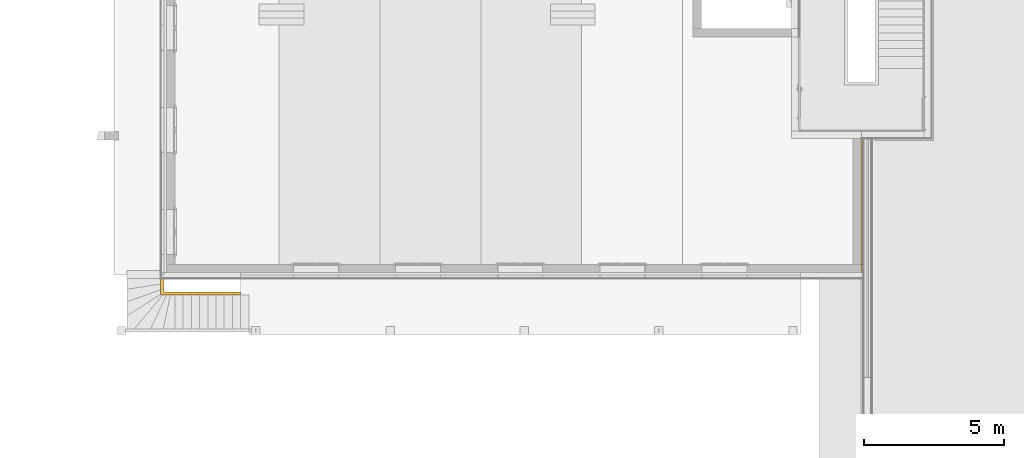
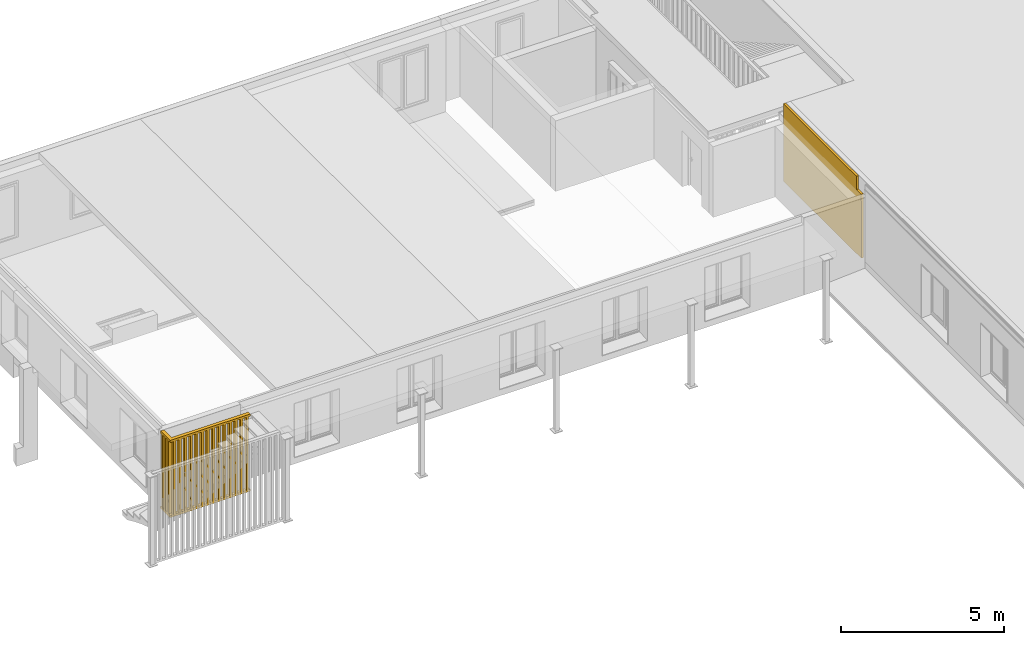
# One storey, part 19 of 20: 1 covering, 1 railing.
"""IFC4 building model written with IfcOpenShell, lengths in millimetres."""

from ifc_helpers import new_model, entity, si_unit, converted_unit, derived_unit, direction, frame, origin_with_axes, place, context, subcontext, project, spatial, polygons, material, constituent, constituent_set, type_object, element, save


model = new_model("IFC4")

# Units and contexts
model_context = context("Model", 3, precision=0.01, world=origin_with_axes(), true_north=direction((0.0, 1.0)))
body_context = subcontext(model_context, "Body", "Model", "MODEL_VIEW")
ifc_project = project(units=[si_unit("LENGTHUNIT", "METRE", prefix="MILLI"), si_unit("AREAUNIT", "SQUARE_METRE"), si_unit("VOLUMEUNIT", "CUBIC_METRE"), converted_unit("PLANEANGLEUNIT", "DEGREE", entity("IfcPlaneAngleMeasure", 0.0174532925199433), si_unit("PLANEANGLEUNIT", "RADIAN"), dimensions=[0, 0, 0, 0, 0, 0, 0]), converted_unit("TIMEUNIT", "Year", entity("IfcTimeMeasure", 31557600.0), si_unit("TIMEUNIT", "SECOND"), dimensions=[0, 0, 1, 0, 0, 0, 0]), si_unit("MASSUNIT", "GRAM", prefix="KILO"), si_unit("THERMODYNAMICTEMPERATUREUNIT", "DEGREE_CELSIUS"), si_unit("LUMINOUSINTENSITYUNIT", "LUMEN"), si_unit("ENERGYUNIT", "JOULE", prefix="MEGA"), derived_unit("THERMALCONDUCTANCEUNIT", [(si_unit("POWERUNIT", "WATT"), 1), (si_unit("LENGTHUNIT", "METRE"), -1), (si_unit("THERMODYNAMICTEMPERATUREUNIT", "KELVIN"), -1)]), derived_unit("SPECIFICHEATCAPACITYUNIT", [(si_unit("ENERGYUNIT", "JOULE"), 1), (si_unit("MASSUNIT", "GRAM", prefix="KILO"), -1), (si_unit("THERMODYNAMICTEMPERATUREUNIT", "KELVIN"), -1)]), derived_unit("MASSDENSITYUNIT", [(si_unit("MASSUNIT", "GRAM", prefix="KILO"), 1), (si_unit("VOLUMEUNIT", "CUBIC_METRE"), -1)])], contexts=[model_context])

# Site, building, storey
site_placement = place(None, origin_with_axes())
site = spatial("IfcSite", under=ifc_project, at=site_placement, Name="Gelände", CompositionType="ELEMENT")
building_placement = place(site_placement, origin_with_axes())
building = spatial("IfcBuilding", under=site, at=building_placement, Name="Gebäude", CompositionType="ELEMENT")
storey_placement = place(building_placement, frame((0.0, 0.0, 5.198845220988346e-05), z_axis=(0.0, 0.0, 1.0), x_axis=(1.0, 0.0, 0.0)))
storey = spatial("IfcBuildingStorey", under=building, at=storey_placement, Name="EG", CompositionType="ELEMENT", Elevation=0.0)

# Railing
ifc_material_1 = material(Name="Vollholzwerkstoff")
ifc_constituent_1 = constituent(ifc_material_1, Name="Vollholzwerkstoff 1")
ifc_constituent_2 = constituent(ifc_material_1, Name="Vollholzwerkstoff 2")
ifc_constituent_3 = constituent(ifc_material_1, Name="Vollholzwerkstoff 3")
ifc_constituent_4 = constituent(ifc_material_1, Name="Vollholzwerkstoff 4")
ifc_constituent_5 = constituent(ifc_material_1, Name="Vollholzwerkstoff 5")
ifc_constituent_6 = constituent(ifc_material_1, Name="Vollholzwerkstoff 6")
ifc_constituent_7 = constituent(ifc_material_1, Name="Vollholzwerkstoff 7")
ifc_constituent_8 = constituent(ifc_material_1, Name="Vollholzwerkstoff 8")
ifc_constituent_9 = constituent(ifc_material_1, Name="Vollholzwerkstoff 9")
ifc_constituent_10 = constituent(ifc_material_1, Name="Vollholzwerkstoff 10")
ifc_constituent_11 = constituent(ifc_material_1, Name="Vollholzwerkstoff 11")
ifc_constituent_12 = constituent(ifc_material_1, Name="Vollholzwerkstoff 12")
ifc_constituent_13 = constituent(ifc_material_1, Name="Vollholzwerkstoff 13")
ifc_constituent_14 = constituent(ifc_material_1, Name="Vollholzwerkstoff 14")
ifc_constituent_15 = constituent(ifc_material_1, Name="Vollholzwerkstoff 15")
ifc_constituent_16 = constituent(ifc_material_1, Name="Vollholzwerkstoff 16")
ifc_constituent_17 = constituent(ifc_material_1, Name="Vollholzwerkstoff 17")
ifc_constituent_18 = constituent(ifc_material_1, Name="Vollholzwerkstoff 18")
ifc_constituent_19 = constituent(ifc_material_1, Name="Vollholzwerkstoff 19")
ifc_constituent_20 = constituent(ifc_material_1, Name="Vollholzwerkstoff 20")
ifc_constituent_21 = constituent(ifc_material_1, Name="Vollholzwerkstoff 21")
ifc_constituent_set = constituent_set(constituents=[ifc_constituent_1, ifc_constituent_2, ifc_constituent_3, ifc_constituent_4, ifc_constituent_5, ifc_constituent_6, ifc_constituent_7, ifc_constituent_8, ifc_constituent_9, ifc_constituent_10, ifc_constituent_11, ifc_constituent_12, ifc_constituent_13, ifc_constituent_14, ifc_constituent_15, ifc_constituent_16, ifc_constituent_17, ifc_constituent_18, ifc_constituent_19, ifc_constituent_20, ifc_constituent_21])
railing_type = type_object("IfcRailingType", Name="Geländerart", PredefinedType="NOTDEFINED")
railing_placement = place(storey_placement, frame((-9118.106064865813, 22017.59673908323, 40.00000000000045), z_axis=(0.0, 0.0, 1.0), x_axis=(1.0, 0.0, 0.0)))
element("IfcRailing", 1, at=railing_placement, inside=storey, type_object=railing_type, material=ifc_constituent_set, Name="Geländer-001", PredefinedType="NOTDEFINED", context=body_context, shape_type="Tessellation", body=[
    polygons([(2046.865966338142, 930.0000016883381, 2859.999948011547), (2046.865966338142, 930.0000016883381, 2779.999948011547), (2046.865966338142, 340.0000000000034, 2779.999948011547), (2046.865966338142, 340.0000000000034, 2859.999948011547), (2166.865966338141, 930.0000016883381, 2859.999948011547), (2166.865966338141, 930.0000016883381, 2779.999948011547), (2166.865966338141, 460.0000000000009, 2779.999948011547), (2166.865966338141, 460.0000000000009, 2859.999948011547)], [[[1, 2, 3, 4]], [[1, 5, 6, 2]], [[2, 6, 7, 3]], [[4, 3, 7, 8]], [[5, 1, 4, 8]], [[6, 5, 8, 7]]], closed=True),
    polygons([(2046.865966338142, 930.0000016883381, 40.0), (2046.865966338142, 930.0000016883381, -40.0), (2046.865966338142, 340.0000000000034, -40.0), (2046.865966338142, 340.0000000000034, 40.0), (2166.865966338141, 930.0000016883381, 40.0), (2166.865966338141, 930.0000016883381, -40.0), (2166.865966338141, 460.0000000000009, -40.0), (2166.865966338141, 460.0000000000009, 40.0)], [[[1, 2, 3, 4]], [[1, 5, 6, 2]], [[2, 6, 7, 3]], [[4, 3, 7, 8]], [[5, 1, 4, 8]], [[6, 5, 8, 7]]], closed=True),
    polygons([(2166.865966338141, 807.5000012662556, 40.0), (2166.865966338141, 807.5000012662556, 2779.999948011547), (2046.865966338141, 807.5000012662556, 2779.999948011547), (2046.865966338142, 807.5000012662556, 40.0), (2166.865966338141, 887.500001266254, 40.0), (2166.865966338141, 887.500001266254, 2779.999948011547), (2046.865966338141, 887.500001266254, 2779.999948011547), (2046.865966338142, 887.500001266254, 40.0)], [[[1, 2, 3, 4]], [[5, 6, 2, 1]], [[2, 6, 7, 3]], [[4, 3, 7, 8]], [[1, 4, 8, 5]], [[8, 7, 6, 5]]], closed=True),
    polygons([(2166.865966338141, 625.0000008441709, 40.0), (2166.865966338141, 625.0000008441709, 2779.999948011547), (2046.865966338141, 625.0000008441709, 2779.999948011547), (2046.865966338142, 625.0000008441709, 40.0), (2166.865966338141, 705.0000008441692, 40.0), (2166.865966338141, 705.0000008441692, 2779.999948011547), (2046.865966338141, 705.0000008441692, 2779.999948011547), (2046.865966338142, 705.0000008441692, 40.0)], [[[1, 2, 3, 4]], [[5, 6, 2, 1]], [[2, 6, 7, 3]], [[4, 3, 7, 8]], [[1, 4, 8, 5]], [[8, 7, 6, 5]]], closed=True),
    polygons([(2166.865966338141, 442.5000004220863, 40.0), (2166.865966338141, 442.5000004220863, 2779.999948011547), (2046.865966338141, 442.5000004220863, 2779.999948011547), (2046.865966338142, 442.5000004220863, 40.0), (2166.865966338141, 522.5000004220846, 40.0), (2166.865966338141, 522.5000004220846, 2779.999948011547), (2046.865966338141, 522.5000004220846, 2779.999948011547), (2046.865966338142, 522.5000004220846, 40.0)], [[[1, 2, 3, 4]], [[5, 6, 2, 1]], [[2, 6, 7, 3]], [[4, 3, 7, 8]], [[1, 4, 8, 5]], [[8, 7, 6, 5]]], closed=True),
    polygons([(2046.865966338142, 340.0000000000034, 2859.999948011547), (2046.865966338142, 340.0000000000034, 2779.999948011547), (4889.859462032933, 340.0000000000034, 2779.999948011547), (4889.859462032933, 340.0000000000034, 2859.999948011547), (2166.865966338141, 460.0000000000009, 2859.999948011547), (2166.865966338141, 460.0000000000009, 2779.999948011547), (4889.859462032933, 460.0000000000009, 2779.999948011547), (4889.859462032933, 460.0000000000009, 2859.999948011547)], [[[1, 2, 3, 4]], [[1, 5, 6, 2]], [[2, 6, 7, 3]], [[4, 3, 7, 8]], [[5, 1, 4, 8]], [[6, 5, 8, 7]]], closed=True),
    polygons([(2046.865966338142, 340.0000000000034, 40.0), (2046.865966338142, 340.0000000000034, -40.0), (4889.859462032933, 340.0000000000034, -39.99999999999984), (4889.859462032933, 340.0000000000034, 40.00000000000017), (2166.865966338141, 460.0000000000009, 40.0), (2166.865966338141, 460.0000000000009, -40.0), (4889.859462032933, 460.0000000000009, -39.99999999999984), (4889.859462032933, 460.0000000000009, 40.00000000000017)], [[[1, 2, 3, 4]], [[1, 5, 6, 2]], [[2, 6, 7, 3]], [[4, 3, 7, 8]], [[5, 1, 4, 8]], [[6, 5, 8, 7]]], closed=True),
    polygons([(2245.732199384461, 460.0000000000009, 40.0), (2245.732199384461, 460.0000000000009, 2779.999948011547), (2245.732199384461, 340.0000000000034, 2779.999948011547), (2245.732199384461, 340.0000000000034, 40.0), (2165.732199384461, 460.0000000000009, 40.0), (2165.732199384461, 460.0000000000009, 2779.999948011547), (2165.732199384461, 340.0000000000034, 2779.999948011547), (2165.732199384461, 340.0000000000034, 40.0)], [[[1, 2, 3, 4]], [[5, 6, 2, 1]], [[2, 6, 7, 3]], [[4, 3, 7, 8]], [[1, 4, 8, 5]], [[8, 7, 6, 5]]], closed=True),
    polygons([(2444.598432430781, 460.0000000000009, 40.00000000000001), (2444.598432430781, 460.0000000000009, 2779.999948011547), (2444.598432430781, 340.0000000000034, 2779.999948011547), (2444.598432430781, 340.0000000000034, 40.00000000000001), (2364.598432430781, 460.0000000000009, 40.00000000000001), (2364.598432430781, 460.0000000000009, 2779.999948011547), (2364.598432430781, 340.0000000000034, 2779.999948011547), (2364.598432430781, 340.0000000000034, 40.00000000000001)], [[[1, 2, 3, 4]], [[5, 6, 2, 1]], [[2, 6, 7, 3]], [[4, 3, 7, 8]], [[1, 4, 8, 5]], [[8, 7, 6, 5]]], closed=True),
    polygons([(2643.4646654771, 460.0000000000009, 40.00000000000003), (2643.4646654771, 460.0000000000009, 2779.999948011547), (2643.4646654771, 340.0000000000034, 2779.999948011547), (2643.4646654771, 340.0000000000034, 40.00000000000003), (2563.4646654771, 460.0000000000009, 40.00000000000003), (2563.4646654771, 460.0000000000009, 2779.999948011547), (2563.4646654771, 340.0000000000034, 2779.999948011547), (2563.4646654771, 340.0000000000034, 40.00000000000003)], [[[1, 2, 3, 4]], [[5, 6, 2, 1]], [[2, 6, 7, 3]], [[4, 3, 7, 8]], [[1, 4, 8, 5]], [[8, 7, 6, 5]]], closed=True),
    polygons([(2842.33089852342, 460.0000000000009, 40.00000000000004), (2842.33089852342, 460.0000000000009, 2779.999948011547), (2842.33089852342, 340.0000000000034, 2779.999948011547), (2842.33089852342, 340.0000000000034, 40.00000000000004), (2762.33089852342, 460.0000000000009, 40.00000000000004), (2762.33089852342, 460.0000000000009, 2779.999948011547), (2762.33089852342, 340.0000000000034, 2779.999948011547), (2762.33089852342, 340.0000000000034, 40.00000000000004)], [[[1, 2, 3, 4]], [[5, 6, 2, 1]], [[2, 6, 7, 3]], [[4, 3, 7, 8]], [[1, 4, 8, 5]], [[8, 7, 6, 5]]], closed=True),
    polygons([(3041.19713156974, 460.0000000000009, 40.00000000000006), (3041.19713156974, 460.0000000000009, 2779.999948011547), (3041.19713156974, 340.0000000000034, 2779.999948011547), (3041.19713156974, 340.0000000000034, 40.00000000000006), (2961.197131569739, 460.0000000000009, 40.00000000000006), (2961.197131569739, 460.0000000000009, 2779.999948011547), (2961.197131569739, 340.0000000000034, 2779.999948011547), (2961.197131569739, 340.0000000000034, 40.00000000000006)], [[[1, 2, 3, 4]], [[5, 6, 2, 1]], [[2, 6, 7, 3]], [[4, 3, 7, 8]], [[1, 4, 8, 5]], [[8, 7, 6, 5]]], closed=True),
    polygons([(3240.063364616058, 460.0000000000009, 40.00000000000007), (3240.063364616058, 460.0000000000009, 2779.999948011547), (3240.063364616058, 340.0000000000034, 2779.999948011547), (3240.063364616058, 340.0000000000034, 40.00000000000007), (3160.063364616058, 460.0000000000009, 40.00000000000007), (3160.063364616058, 460.0000000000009, 2779.999948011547), (3160.063364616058, 340.0000000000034, 2779.999948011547), (3160.063364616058, 340.0000000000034, 40.00000000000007)], [[[1, 2, 3, 4]], [[5, 6, 2, 1]], [[2, 6, 7, 3]], [[4, 3, 7, 8]], [[1, 4, 8, 5]], [[8, 7, 6, 5]]], closed=True),
    polygons([(3438.929597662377, 460.0000000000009, 40.00000000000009), (3438.929597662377, 460.0000000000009, 2779.999948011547), (3438.929597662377, 340.0000000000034, 2779.999948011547), (3438.929597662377, 340.0000000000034, 40.00000000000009), (3358.929597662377, 460.0000000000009, 40.00000000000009), (3358.929597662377, 460.0000000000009, 2779.999948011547), (3358.929597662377, 340.0000000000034, 2779.999948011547), (3358.929597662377, 340.0000000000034, 40.00000000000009)], [[[1, 2, 3, 4]], [[5, 6, 2, 1]], [[2, 6, 7, 3]], [[4, 3, 7, 8]], [[1, 4, 8, 5]], [[8, 7, 6, 5]]], closed=True),
    polygons([(3637.795830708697, 460.0000000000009, 40.00000000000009), (3637.795830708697, 460.0000000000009, 2779.999948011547), (3637.795830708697, 340.0000000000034, 2779.999948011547), (3637.795830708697, 340.0000000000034, 40.00000000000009), (3557.795830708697, 460.0000000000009, 40.00000000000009), (3557.795830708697, 460.0000000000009, 2779.999948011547), (3557.795830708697, 340.0000000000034, 2779.999948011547), (3557.795830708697, 340.0000000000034, 40.00000000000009)], [[[1, 2, 3, 4]], [[5, 6, 2, 1]], [[2, 6, 7, 3]], [[4, 3, 7, 8]], [[1, 4, 8, 5]], [[8, 7, 6, 5]]], closed=True),
    polygons([(3836.662063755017, 460.0000000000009, 40.0000000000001), (3836.662063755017, 460.0000000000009, 2779.999948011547), (3836.662063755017, 340.0000000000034, 2779.999948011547), (3836.662063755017, 340.0000000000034, 40.0000000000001), (3756.662063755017, 460.0000000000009, 40.0000000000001), (3756.662063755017, 460.0000000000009, 2779.999948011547), (3756.662063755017, 340.0000000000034, 2779.999948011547), (3756.662063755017, 340.0000000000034, 40.0000000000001)], [[[1, 2, 3, 4]], [[5, 6, 2, 1]], [[2, 6, 7, 3]], [[4, 3, 7, 8]], [[1, 4, 8, 5]], [[8, 7, 6, 5]]], closed=True),
    polygons([(4035.528296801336, 460.0000000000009, 40.00000000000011), (4035.528296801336, 460.0000000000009, 2779.999948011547), (4035.528296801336, 340.0000000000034, 2779.999948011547), (4035.528296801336, 340.0000000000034, 40.00000000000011), (3955.528296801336, 460.0000000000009, 40.00000000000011), (3955.528296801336, 460.0000000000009, 2779.999948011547), (3955.528296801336, 340.0000000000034, 2779.999948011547), (3955.528296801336, 340.0000000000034, 40.00000000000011)], [[[1, 2, 3, 4]], [[5, 6, 2, 1]], [[2, 6, 7, 3]], [[4, 3, 7, 8]], [[1, 4, 8, 5]], [[8, 7, 6, 5]]], closed=True),
    polygons([(4234.394529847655, 460.0000000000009, 40.00000000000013), (4234.394529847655, 460.0000000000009, 2779.999948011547), (4234.394529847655, 340.0000000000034, 2779.999948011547), (4234.394529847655, 340.0000000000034, 40.00000000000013), (4154.394529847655, 460.0000000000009, 40.00000000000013), (4154.394529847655, 460.0000000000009, 2779.999948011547), (4154.394529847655, 340.0000000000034, 2779.999948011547), (4154.394529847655, 340.0000000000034, 40.00000000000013)], [[[1, 2, 3, 4]], [[5, 6, 2, 1]], [[2, 6, 7, 3]], [[4, 3, 7, 8]], [[1, 4, 8, 5]], [[8, 7, 6, 5]]], closed=True),
    polygons([(4433.260762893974, 460.0000000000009, 40.00000000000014), (4433.260762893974, 460.0000000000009, 2779.999948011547), (4433.260762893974, 340.0000000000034, 2779.999948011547), (4433.260762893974, 340.0000000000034, 40.00000000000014), (4353.260762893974, 460.0000000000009, 40.00000000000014), (4353.260762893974, 460.0000000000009, 2779.999948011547), (4353.260762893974, 340.0000000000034, 2779.999948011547), (4353.260762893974, 340.0000000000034, 40.00000000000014)], [[[1, 2, 3, 4]], [[5, 6, 2, 1]], [[2, 6, 7, 3]], [[4, 3, 7, 8]], [[1, 4, 8, 5]], [[8, 7, 6, 5]]], closed=True),
    polygons([(4632.126995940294, 460.0000000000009, 40.00000000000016), (4632.126995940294, 460.0000000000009, 2779.999948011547), (4632.126995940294, 340.0000000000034, 2779.999948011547), (4632.126995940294, 340.0000000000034, 40.00000000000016), (4552.126995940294, 460.0000000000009, 40.00000000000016), (4552.126995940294, 460.0000000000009, 2779.999948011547), (4552.126995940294, 340.0000000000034, 2779.999948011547), (4552.126995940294, 340.0000000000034, 40.00000000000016)], [[[1, 2, 3, 4]], [[5, 6, 2, 1]], [[2, 6, 7, 3]], [[4, 3, 7, 8]], [[1, 4, 8, 5]], [[8, 7, 6, 5]]], closed=True),
    polygons([(4830.993228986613, 460.0000000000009, 40.00000000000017), (4830.993228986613, 460.0000000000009, 2779.999948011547), (4830.993228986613, 340.0000000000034, 2779.999948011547), (4830.993228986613, 340.0000000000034, 40.00000000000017), (4750.993228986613, 460.0000000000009, 40.00000000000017), (4750.993228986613, 460.0000000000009, 2779.999948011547), (4750.993228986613, 340.0000000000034, 2779.999948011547), (4750.993228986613, 340.0000000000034, 40.00000000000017)], [[[1, 2, 3, 4]], [[5, 6, 2, 1]], [[2, 6, 7, 3]], [[4, 3, 7, 8]], [[1, 4, 8, 5]], [[8, 7, 6, 5]]], closed=True),
])

# Covering
ifc_material_2 = material(Name="Dämmung Innen")
covering_type = type_object("IfcCoveringType", Name="Dämmung Innen 80", PredefinedType="NOTDEFINED")
covering_placement = place(storey_placement, frame((17919.99744477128, 27947.49728131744, 500.0), z_axis=(0.0, 0.0, 1.0), x_axis=(0.0, -1.0, 0.0)))
element("IfcCovering", 2, at=covering_placement, inside=storey, type_object=covering_type, material=ifc_material_2, Name="Wand-014", PredefinedType="NOTDEFINED", context=body_context, shape_type="Tessellation", body=[
    polygons([(0.0, 0.0, 2899.999948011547), (4489.900540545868, 0.0, 2899.999948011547), (4489.900540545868, 79.9999999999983, 2899.999948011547), (0.0, 80.00000000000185, 2899.999948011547), (4789.900540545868, 0.0, 2399.999948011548), (4489.900540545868, 0.0, 2399.999948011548), (0.0, 0.0, 0.0), (4489.900540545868, 0.0, 0.0), (4489.900540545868, 0.0, 2149.999948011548), (4789.900540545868, 0.0, 2149.999948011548), (4489.900540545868, 79.9999999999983, 2399.999948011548), (4789.900540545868, 79.9999999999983, 2399.999948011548), (4789.900540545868, 79.9999999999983, 2149.999948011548), (4789.900540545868, 79.9999999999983, 0.0), (0.0, 79.9999999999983, 0.0), (4789.900540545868, 8.999999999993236, 0.0), (4489.900540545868, 8.999999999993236, 0.0), (4489.900540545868, 8.999999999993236, 2149.999948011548), (4789.900540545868, 8.999999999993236, 2149.999948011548)], [[[1, 2, 3, 4]], [[5, 6, 2, 1, 7, 8, 9, 10]], [[6, 11, 3, 2]], [[3, 11, 12, 13, 14, 15, 4]], [[4, 15, 7, 1]], [[5, 12, 11, 6]], [[16, 17, 8, 7, 15, 14]], [[9, 8, 17, 18]], [[18, 19, 10, 9]], [[13, 12, 5, 10, 19, 16, 14]], [[18, 17, 16, 19]]], closed=True),
])

save(model, "model.ifc")
